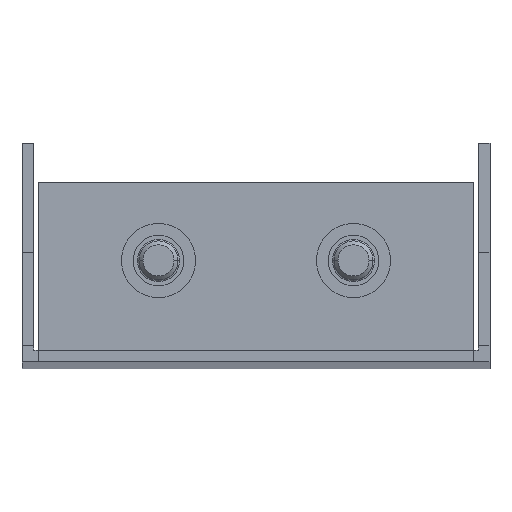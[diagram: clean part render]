
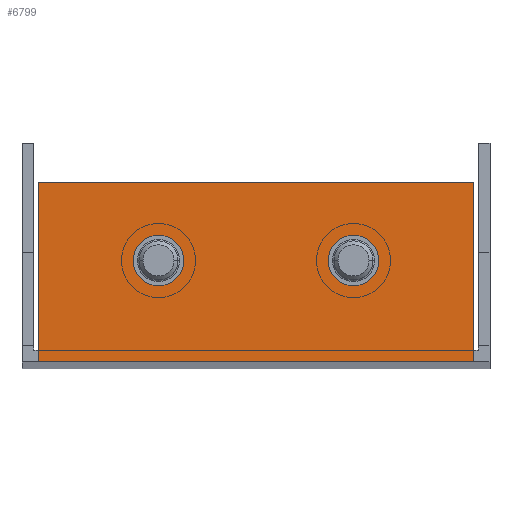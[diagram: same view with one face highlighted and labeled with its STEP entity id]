
A CAD part, top view. The second image highlights one B-rep face of the part: STEP entity #6799.
In plain terms, the highlighted planar face has unit normal (0, 0, 1).
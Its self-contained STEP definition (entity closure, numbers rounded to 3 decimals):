
#1906 = VERTEX_POINT('',#1907);
#1907 = CARTESIAN_POINT('',(-9.25,13.,244.5));
#1913 = EDGE_CURVE('',#1914,#1906,#1916,.T.);
#1914 = VERTEX_POINT('',#1915);
#1915 = CARTESIAN_POINT('',(-15.75,13.,244.5));
#1916 = CIRCLE('',#1917,3.25);
#1917 = AXIS2_PLACEMENT_3D('',#1918,#1919,#1920);
#1918 = CARTESIAN_POINT('',(-12.5,13.,244.5));
#1919 = DIRECTION('',(0.,0.,1.));
#1920 = DIRECTION('',(1.,0.,-0.));
#1948 = VERTEX_POINT('',#1949);
#1949 = CARTESIAN_POINT('',(15.75,13.,244.5));
#1955 = EDGE_CURVE('',#1956,#1948,#1958,.T.);
#1956 = VERTEX_POINT('',#1957);
#1957 = CARTESIAN_POINT('',(9.25,13.,244.5));
#1958 = CIRCLE('',#1959,3.25);
#1959 = AXIS2_PLACEMENT_3D('',#1960,#1961,#1962);
#1960 = CARTESIAN_POINT('',(12.5,13.,244.5));
#1961 = DIRECTION('',(0.,0.,1.));
#1962 = DIRECTION('',(-1.,0.,0.));
#4573 = VERTEX_POINT('',#4574);
#4574 = CARTESIAN_POINT('',(-27.9,0.,244.5));
#4644 = VERTEX_POINT('',#4645);
#4645 = CARTESIAN_POINT('',(27.9,0.,244.5));
#4651 = EDGE_CURVE('',#4573,#4644,#4652,.T.);
#4652 = LINE('',#4653,#4654);
#4653 = CARTESIAN_POINT('',(-30.,0.,244.5));
#4654 = VECTOR('',#4655,1.);
#4655 = DIRECTION('',(1.,0.,0.));
#6678 = VERTEX_POINT('',#6679);
#6679 = CARTESIAN_POINT('',(-27.9,2.1,244.5));
#6694 = EDGE_CURVE('',#6678,#4573,#6695,.T.);
#6695 = LINE('',#6696,#6697);
#6696 = CARTESIAN_POINT('',(-27.9,2.1,244.5));
#6697 = VECTOR('',#6698,1.);
#6698 = DIRECTION('',(0.,-1.,0.));
#6718 = VERTEX_POINT('',#6719);
#6719 = CARTESIAN_POINT('',(27.9,2.1,244.5));
#6725 = EDGE_CURVE('',#6718,#4644,#6726,.T.);
#6726 = LINE('',#6727,#6728);
#6727 = CARTESIAN_POINT('',(27.9,0.,244.5));
#6728 = VECTOR('',#6729,1.);
#6729 = DIRECTION('',(-0.,-1.,-0.));
#6751 = VERTEX_POINT('',#6752);
#6752 = CARTESIAN_POINT('',(27.9,23.,244.5));
#6758 = EDGE_CURVE('',#6718,#6751,#6759,.T.);
#6759 = LINE('',#6760,#6761);
#6760 = CARTESIAN_POINT('',(27.9,0.,244.5));
#6761 = VECTOR('',#6762,1.);
#6762 = DIRECTION('',(0.,1.,0.));
#6773 = EDGE_CURVE('',#6774,#6678,#6776,.T.);
#6774 = VERTEX_POINT('',#6775);
#6775 = CARTESIAN_POINT('',(-27.9,23.,244.5));
#6776 = LINE('',#6777,#6778);
#6777 = CARTESIAN_POINT('',(-27.9,0.,244.5));
#6778 = VECTOR('',#6779,1.);
#6779 = DIRECTION('',(0.,-1.,0.));
#6799 = ADVANCED_FACE('',(#6800,#6810,#6820),#6833,.F.);
#6800 = FACE_BOUND('',#6801,.T.);
#6801 = EDGE_LOOP('',(#6802,#6809));
#6802 = ORIENTED_EDGE('',*,*,#6803,.F.);
#6803 = EDGE_CURVE('',#1906,#1914,#6804,.T.);
#6804 = CIRCLE('',#6805,3.25);
#6805 = AXIS2_PLACEMENT_3D('',#6806,#6807,#6808);
#6806 = CARTESIAN_POINT('',(-12.5,13.,244.5));
#6807 = DIRECTION('',(0.,0.,1.));
#6808 = DIRECTION('',(1.,0.,-0.));
#6809 = ORIENTED_EDGE('',*,*,#1913,.F.);
#6810 = FACE_BOUND('',#6811,.T.);
#6811 = EDGE_LOOP('',(#6812,#6819));
#6812 = ORIENTED_EDGE('',*,*,#6813,.F.);
#6813 = EDGE_CURVE('',#1948,#1956,#6814,.T.);
#6814 = CIRCLE('',#6815,3.25);
#6815 = AXIS2_PLACEMENT_3D('',#6816,#6817,#6818);
#6816 = CARTESIAN_POINT('',(12.5,13.,244.5));
#6817 = DIRECTION('',(0.,0.,1.));
#6818 = DIRECTION('',(-1.,0.,0.));
#6819 = ORIENTED_EDGE('',*,*,#1955,.F.);
#6820 = FACE_BOUND('',#6821,.T.);
#6821 = EDGE_LOOP('',(#6822,#6823,#6824,#6825,#6826,#6827));
#6822 = ORIENTED_EDGE('',*,*,#6773,.T.);
#6823 = ORIENTED_EDGE('',*,*,#6694,.T.);
#6824 = ORIENTED_EDGE('',*,*,#4651,.T.);
#6825 = ORIENTED_EDGE('',*,*,#6725,.F.);
#6826 = ORIENTED_EDGE('',*,*,#6758,.T.);
#6827 = ORIENTED_EDGE('',*,*,#6828,.T.);
#6828 = EDGE_CURVE('',#6751,#6774,#6829,.T.);
#6829 = LINE('',#6830,#6831);
#6830 = CARTESIAN_POINT('',(0.,23.,244.5));
#6831 = VECTOR('',#6832,1.);
#6832 = DIRECTION('',(-1.,0.,0.));
#6833 = PLANE('',#6834);
#6834 = AXIS2_PLACEMENT_3D('',#6835,#6836,#6837);
#6835 = CARTESIAN_POINT('',(0.,0.,244.5));
#6836 = DIRECTION('',(0.,0.,-1.));
#6837 = DIRECTION('',(-1.,0.,-0.));
